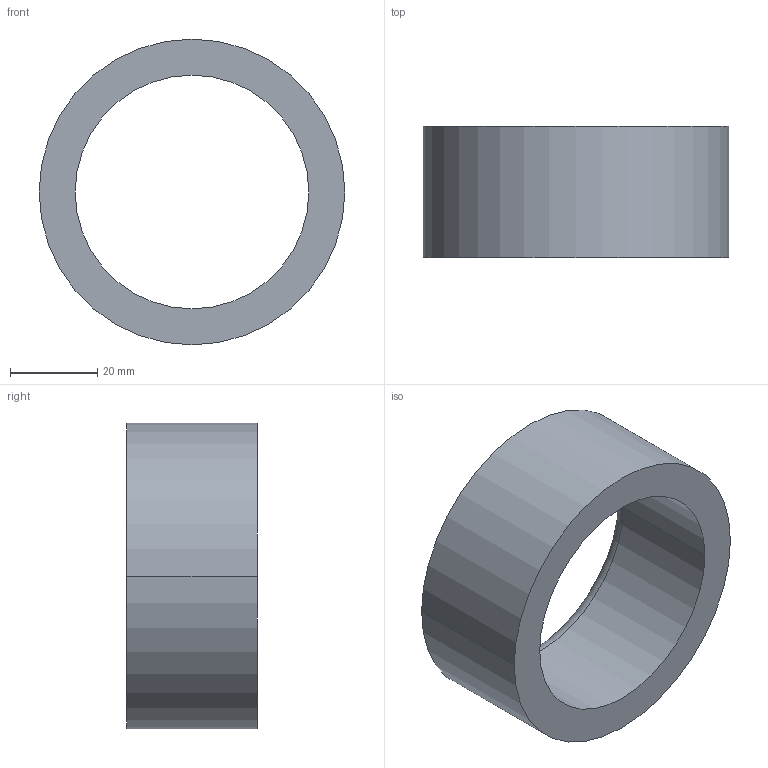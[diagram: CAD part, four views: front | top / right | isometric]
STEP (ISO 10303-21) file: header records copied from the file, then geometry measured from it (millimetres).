
FILE_DESCRIPTION (( 'STEP AP203' ), '1' );
FILE_NAME ('30800.WPP70L53.5.step', '2019-01-23T23:01:02', ( '' ), ( '' ), 'SwSTEP 2.0', 'SolidWorks 2017', '' );
FILE_SCHEMA (( 'CONFIG_CONTROL_DESIGN' ));
Length unit declared in the file: millimetre
Products named in the file (1): 30800.WPP70L53.5
Bounding box: 70 x 30 x 70 mm (x, y, z)
Volume: 47558.6 mm3; surface area: 14593.5 mm2
Topology: 1 solids, 1 shells, 8 faces, 16 edges, 10 vertices
Faces by surface type: cylinder 4, torus 2, plane 2
Entity records: 297 total; most frequent: DIRECTION 46, CARTESIAN_POINT 35, ORIENTED_EDGE 32, AXIS2_PLACEMENT_3D 21, EDGE_CURVE 16, CIRCLE 12, EDGE_LOOP 10, VERTEX_POINT 10
